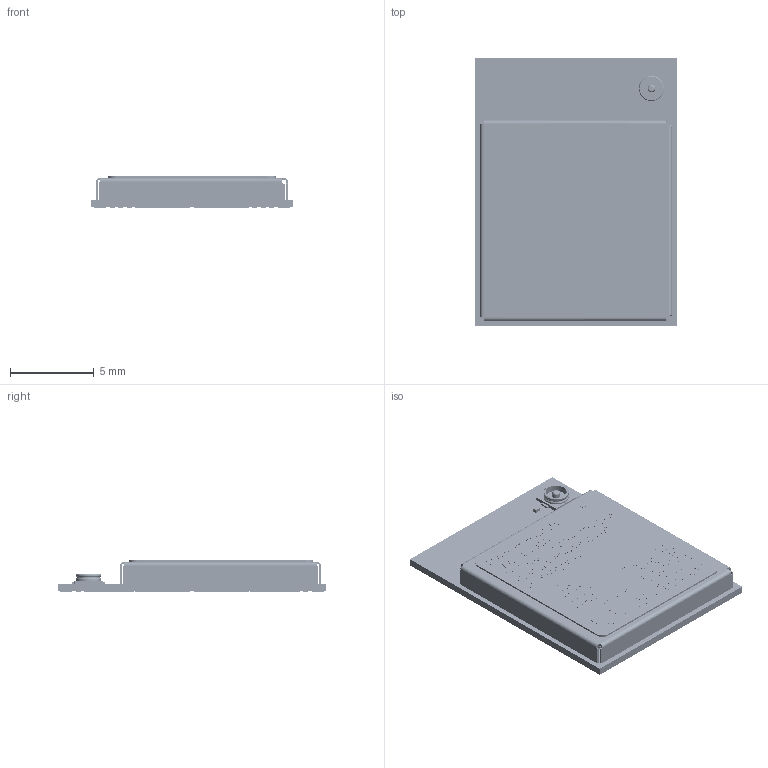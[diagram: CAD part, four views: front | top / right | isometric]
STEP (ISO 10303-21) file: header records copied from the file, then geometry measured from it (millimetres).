
FILE_DESCRIPTION (( 'STEP AP214' ), '1' );
FILE_NAME ('453-00158.STEP', '2026-05-25T10:29:25', ( '' ), ( '' ), 'SwSTEP 2.0', 'SolidWorks 2025', '' );
FILE_SCHEMA (( 'AUTOMOTIVE_DESIGN' ));
Length unit declared in the file: millimetre
Products named in the file (5): 453-00158; 160-02404_453-00158; 940-00275; 110-00821
Assembly tree (4 placements, depth 3):
  453-00158
    940-00275
      940-00275
      110-00821
    160-02404_453-00158
Bounding box: 12 x 16 x 1.85 mm (x, y, z)
Volume: 29.5 mm3; surface area: 1756.8 mm2
Topology: 2 solids, 357 shells, 12457 faces, 31999 edges, 20280 vertices
Faces by surface type: cylinder 5375, plane 5324, sphere 880, bspline 846, torus 26, cone 6
Entity records: 485961 total; most frequent: CARTESIAN_POINT 94604, DIRECTION 65346, ORIENTED_EDGE 63520, EDGE_CURVE 31851, AXIS2_PLACEMENT_3D 23128, VERTEX_POINT 20244, LINE 19090, VECTOR 19090
